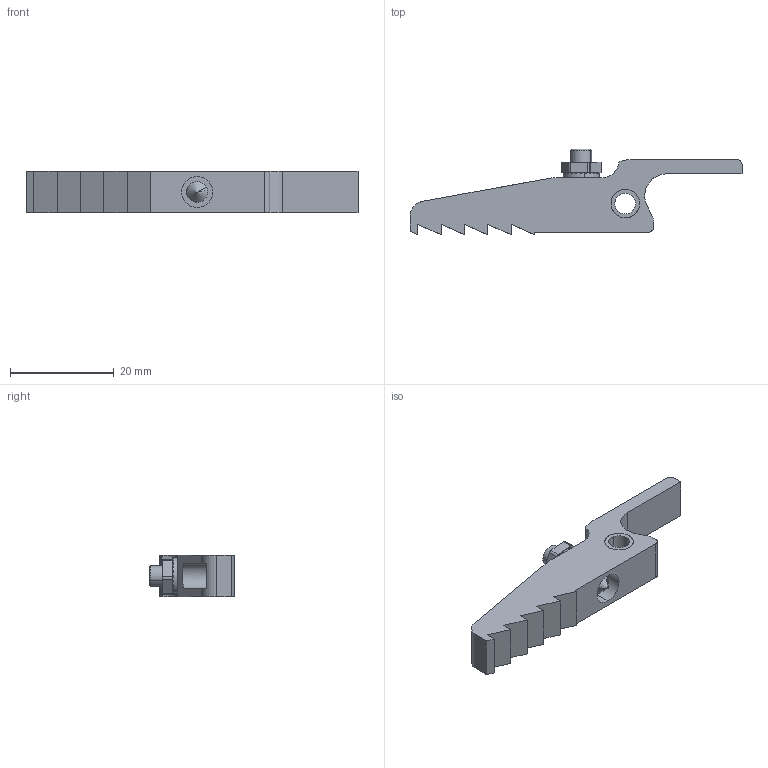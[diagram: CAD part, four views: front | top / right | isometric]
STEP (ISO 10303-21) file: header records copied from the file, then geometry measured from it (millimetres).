
FILE_DESCRIPTION (( 'STEP AP214' ), '1' );
FILE_NAME ('GTS.03.19.STEP', '2015-12-13T09:47:40', ( '' ), ( '' ), 'SwSTEP 2.0', 'SolidWorks 2012', '' );
FILE_SCHEMA (( 'AUTOMOTIVE_DESIGN' ));
Length unit declared in the file: millimetre
Products named in the file (6): GTS.03.19; GTS.1003.19; PAP.0405504; D.4; socket set screw cone point_iso_ISO 4027 - M4 x 16-N; R.4.SCH
Assembly tree (6 placements, depth 2):
  GTS.03.19
    GTS.1003.19
    PAP.0405504  x2
    D.4
    socket set screw cone point_iso_ISO 4027 - M4 x 16-N
    R.4.SCH
Bounding box: 64 x 16.5 x 8 mm (x, y, z)
Volume: 3508.1 mm3; surface area: 3307.3 mm2
Topology: 6 solids, 6 shells, 287 faces, 816 edges, 539 vertices
Faces by surface type: plane 240, cylinder 43, cone 4
Entity records: 9516 total; most frequent: DIRECTION 1646, CARTESIAN_POINT 1626, ORIENTED_EDGE 1604, EDGE_CURVE 802, AXIS2_PLACEMENT_3D 555, VECTOR 536, LINE 536, VERTEX_POINT 531
